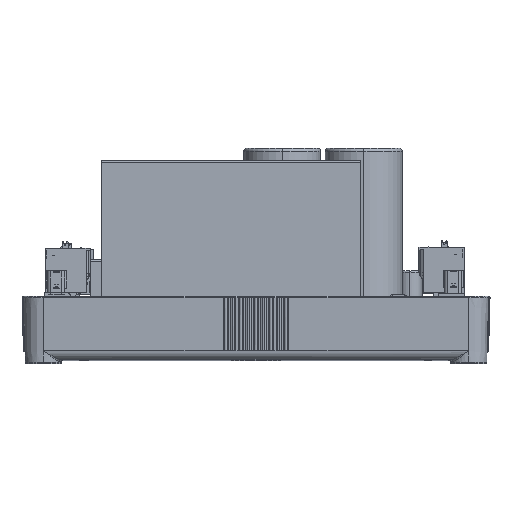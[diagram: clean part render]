
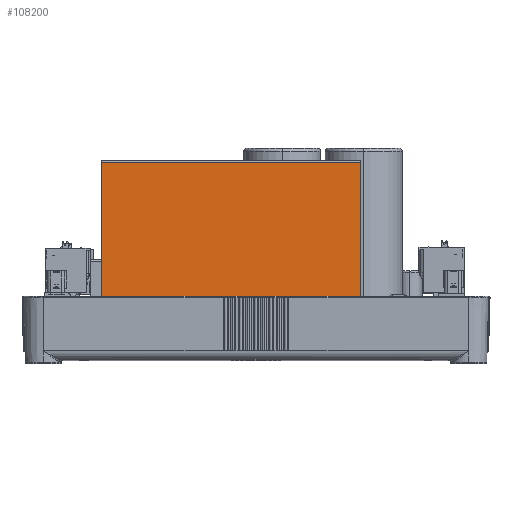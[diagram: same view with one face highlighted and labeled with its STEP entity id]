
A CAD part, top view. The second image highlights one B-rep face of the part: STEP entity #108200.
In plain terms, the highlighted planar face has unit normal (0, 0, 1).
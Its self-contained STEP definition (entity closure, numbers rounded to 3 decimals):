
#1279 = EDGE_CURVE ( 'NONE', #171247, #193758, #55646, .T. ) ;
#1292 = CARTESIAN_POINT ( 'NONE',  ( -51.233, 1.1, 113.056 ) ) ;
#6744 = LINE ( 'NONE', #168389, #82110 ) ;
#26132 = CARTESIAN_POINT ( 'NONE',  ( 34.767, -4.9, 113.056 ) ) ;
#33717 = VECTOR ( 'NONE', #81028, 1000. ) ;
#44194 = VERTEX_POINT ( 'NONE', #26132 ) ;
#50526 = LINE ( 'NONE', #221617, #33717 ) ;
#51836 = EDGE_LOOP ( 'NONE', ( #55801, #211891, #196637, #166305 ) ) ;
#51945 = DIRECTION ( 'NONE',  ( 0., -1., 0. ) ) ;
#55646 = LINE ( 'NONE', #1292, #72453 ) ;
#55801 = ORIENTED_EDGE ( 'NONE', *, *, #146920, .F. ) ;
#58943 = VECTOR ( 'NONE', #175433, 1000. ) ;
#62197 = DIRECTION ( 'NONE',  ( -1., 0., 0. ) ) ;
#72453 = VECTOR ( 'NONE', #51945, 1000. ) ;
#81028 = DIRECTION ( 'NONE',  ( 1., 0., 0. ) ) ;
#82110 = VECTOR ( 'NONE', #62197, 1000. ) ;
#83104 = EDGE_CURVE ( 'NONE', #217421, #171247, #6744, .T. ) ;
#99145 = EDGE_CURVE ( 'NONE', #193758, #44194, #50526, .T. ) ;
#107351 = DIRECTION ( 'NONE',  ( 0., 0., -1. ) ) ;
#108200 = ADVANCED_FACE ( 'NONE', ( #116808 ), #196396, .F. ) ;
#112028 = LINE ( 'NONE', #194192, #58943 ) ;
#116808 = FACE_OUTER_BOUND ( 'NONE', #51836, .T. ) ;
#126947 = CARTESIAN_POINT ( 'NONE',  ( -51.233, -4.9, 113.056 ) ) ;
#128612 = CARTESIAN_POINT ( 'NONE',  ( 34.767, 44.4, 113.056 ) ) ;
#134317 = AXIS2_PLACEMENT_3D ( 'NONE', #144848, #107351, #160442 ) ;
#144848 = CARTESIAN_POINT ( 'NONE',  ( 34.767, 1.1, 113.056 ) ) ;
#146920 = EDGE_CURVE ( 'NONE', #217421, #44194, #112028, .T. ) ;
#160442 = DIRECTION ( 'NONE',  ( -1., 0., 0. ) ) ;
#166305 = ORIENTED_EDGE ( 'NONE', *, *, #99145, .T. ) ;
#168389 = CARTESIAN_POINT ( 'NONE',  ( -51.233, 44.4, 113.056 ) ) ;
#171247 = VERTEX_POINT ( 'NONE', #194028 ) ;
#175433 = DIRECTION ( 'NONE',  ( 0., -1., 0. ) ) ;
#193758 = VERTEX_POINT ( 'NONE', #126947 ) ;
#194028 = CARTESIAN_POINT ( 'NONE',  ( -51.233, 44.4, 113.056 ) ) ;
#194192 = CARTESIAN_POINT ( 'NONE',  ( 34.767, 1.1, 113.056 ) ) ;
#196396 = PLANE ( 'NONE',  #134317 ) ;
#196637 = ORIENTED_EDGE ( 'NONE', *, *, #1279, .T. ) ;
#211891 = ORIENTED_EDGE ( 'NONE', *, *, #83104, .T. ) ;
#217421 = VERTEX_POINT ( 'NONE', #128612 ) ;
#221617 = CARTESIAN_POINT ( 'NONE',  ( 34.767, -4.9, 113.056 ) ) ;
